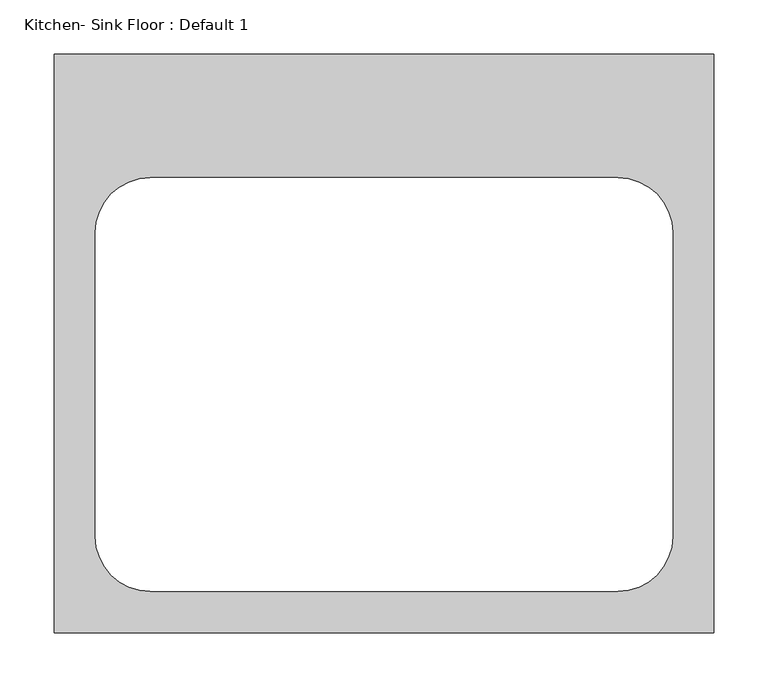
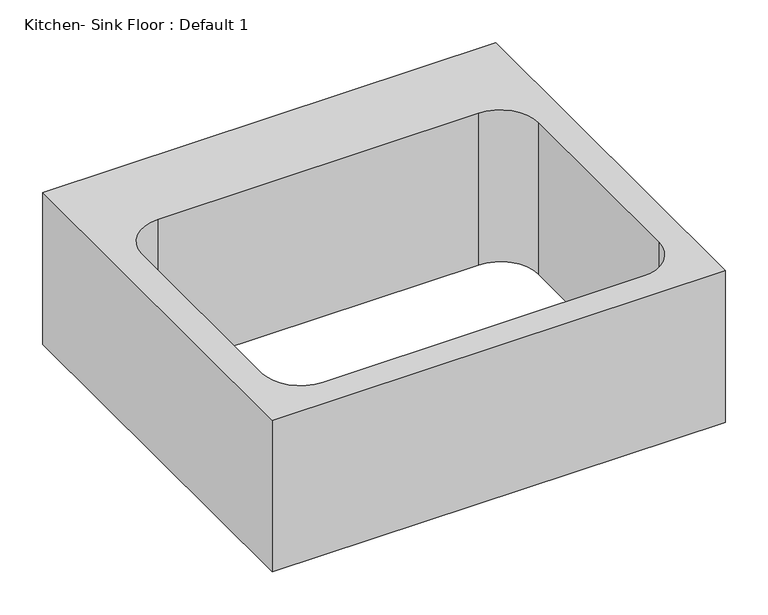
"""IFC4 building model written with IfcOpenShell, lengths in millimetres: flow terminal geometry, Kitchen- Sink Floor : Default 1."""

from ifc_helpers import new_model, si_unit, point, frame, frame_2d, origin, place, context, project, spatial, polyline, circle_curve, trimmed, segment, composite_curve, outline, extrude, source, transform, mapped, element, save


def kitchen_sink_floor_default_1_fab1836c(model_context):
    return source(origin(), model_context, "Body", "SweptSolid", [
        extrude(outline(polyline([(229.6, 0.0), (229.6, -534.9875), (-380.0, -534.9875), (-380.0, 0.0), (229.6, 0.0)]), holes=[composite_curve([segment(polyline([(140.7, -114.3), (-291.1, -114.3)]), True, "CONTINUOUS"), segment(trimmed(circle_curve(frame_2d((-291.1, -165.1)), 50.8), [point((-291.1, -114.3))], [point((-341.9, -165.1))], True, "CARTESIAN"), True, "CONTINUOUS"), segment(polyline([(-341.9, -165.1), (-341.9, -446.0875)]), True, "CONTINUOUS"), segment(trimmed(circle_curve(frame_2d((-291.1, -446.0875)), 50.8), [point((-341.9, -446.0875))], [point((-291.1, -496.8875))], True, "CARTESIAN"), True, "CONTINUOUS"), segment(polyline([(-291.1, -496.8875), (140.7, -496.8875)]), True, "CONTINUOUS"), segment(trimmed(circle_curve(frame_2d((140.7, -446.0875)), 50.8), [point((140.7, -496.8875))], [point((191.5, -446.0875))], True, "CARTESIAN"), True, "CONTINUOUS"), segment(polyline([(191.5, -446.0875), (191.5, -165.1)]), True, "CONTINUOUS"), segment(trimmed(circle_curve(frame_2d((140.7, -165.1)), 50.8), [point((191.5, -165.1))], [point((140.7, -114.3))], True, "CARTESIAN"), True, "CONTINUOUS")], self_intersect=False)]), frame((0.0, 0.0, 698.5), z_axis=(0.0, 0.0, 1.0), x_axis=(1.0, 0.0, 0.0)), (0.0, 0.0, 1.0), 215.9),
    ])


if __name__ == "__main__":
    model = new_model("IFC4")
    model_context = context("Model", 3, world=origin())
    ifc_project = project(units=[si_unit("LENGTHUNIT", "METRE", prefix="MILLI")], contexts=[model_context])
    site = spatial("IfcSite", under=ifc_project)
    building = spatial("IfcBuilding", under=site)
    placement = place(None, origin())
    kitchen_sink_floor_default_1_shape = kitchen_sink_floor_default_1_fab1836c(model_context)
    element("IfcFlowTerminal", 1, ObjectType="Kitchen- Sink Floor : Default 1", at=placement, inside=building, context=model_context, shape_type="MappedRepresentation", body=[
        mapped(kitchen_sink_floor_default_1_shape, transform((0.0, 0.0, 0.0), x_axis=(1.0, 0.0, 0.0), y_axis=(0.0, 1.0, 0.0), z_axis=(0.0, 0.0, 1.0))),
    ])
    save(model, "model.ifc")
